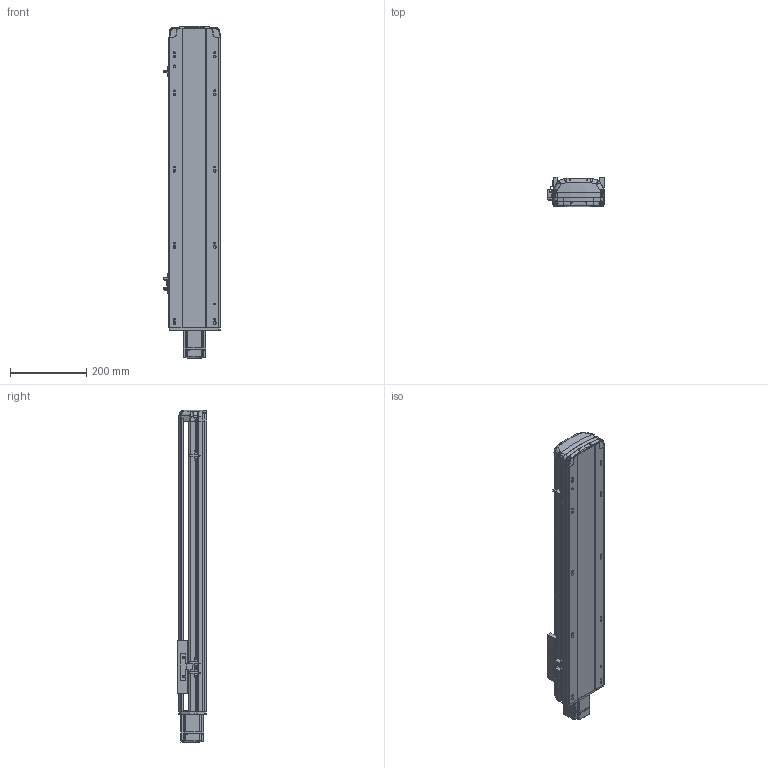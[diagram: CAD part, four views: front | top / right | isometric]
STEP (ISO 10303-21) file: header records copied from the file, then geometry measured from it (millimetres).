
FILE_DESCRIPTION (( 'STEP AP214' ), '1' );
FILE_NAME ('RTH14-XX-550-E-M20-C4.STEP', '2025-10-24T09:08:23', ( 'Microsoft' ), ( 'Microsoft' ), 'SwSTEP 2.0', 'SolidWorks 2018', '' );
FILE_SCHEMA (( 'AUTOMOTIVE_DESIGN' ));
Length unit declared in the file: millimetre
Products named in the file (9): N_RTH13-E-008萇儂耜猾裔^RTH14-XX-XX-E-M20-C4; RTH14-XX-550-E-M20-C4; N_RTH14-E-011P菁釱^RTH14-XX-XX-E-M20-C4; N_RTH14-GY-001P^RTH14-XX-XX-E-M20-C4; N_OMRON EE-SX672 传感器^RTH14-XX-XX-E-M20-C4; N_RTH13-L-012感应片（外置）^RTH14-XX-XX-E-M20-C4; N_MSMD022P1AA_200W^RTH14-XX-XX-E-M20-C4; N_RTH14-E-007P奻裔^RTH14-XX-XX-E-M20-C4; N_RTH14-R-004-SFSR16賑釱^RTH14-XX-XX-E-M20-C4
Assembly tree (10 placements, depth 2):
  RTH14-XX-550-E-M20-C4
    N_RTH14-E-011P菁釱^RTH14-XX-XX-E-M20-C4
    N_RTH14-E-007P奻裔^RTH14-XX-XX-E-M20-C4
    N_MSMD022P1AA_200W^RTH14-XX-XX-E-M20-C4
    N_RTH13-L-012感应片（外置）^RTH14-XX-XX-E-M20-C4
    N_OMRON EE-SX672 传感器^RTH14-XX-XX-E-M20-C4  x3
    N_RTH13-E-008萇儂耜猾裔^RTH14-XX-XX-E-M20-C4
    N_RTH14-R-004-SFSR16賑釱^RTH14-XX-XX-E-M20-C4
    N_RTH14-GY-001P^RTH14-XX-XX-E-M20-C4
Bounding box: 148.5 x 78.03 x 872.37 mm (x, y, z)
Volume: 3673151 mm3; surface area: 808309.4 mm2
Topology: 10 solids, 10 shells, 1867 faces, 5254 edges, 3452 vertices
Faces by surface type: plane 977, cylinder 500, bspline 341, cone 45, torus 4
Entity records: 57192 total; most frequent: CARTESIAN_POINT 22852, ORIENTED_EDGE 7576, DIRECTION 6111, EDGE_CURVE 3788, VERTEX_POINT 2488, VECTOR 2167, LINE 2167, AXIS2_PLACEMENT_3D 1972
